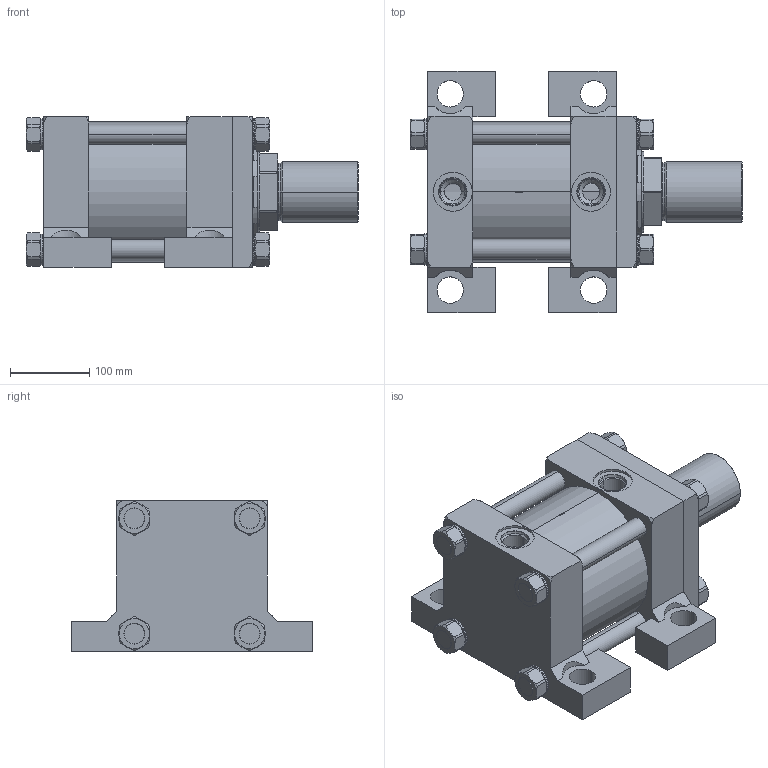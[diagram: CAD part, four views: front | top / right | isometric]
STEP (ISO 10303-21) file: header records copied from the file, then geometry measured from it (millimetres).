
FILE_DESCRIPTION (( 'STEP AP214' ), '1' );
FILE_NAME ('6.00C2HHNAT124A2.000.step', '2026-03-26T21:13:29', ( '' ), ( '' ), 'SwSTEP 2.0', 'SolidWorks 2023', '' );
FILE_SCHEMA (( 'AUTOMOTIVE_DESIGN' ));
Length unit declared in the file: inch
Products named in the file (1): 6.00C2HHNAT124A2.000
Bounding box: 419.1 x 304.8 x 190.5 mm (x, y, z)
Volume: 8965445.6 mm3; surface area: 984969.9 mm2
Topology: 44 solids, 44 shells, 1215 faces, 3133 edges, 2014 vertices
Faces by surface type: plane 789, cylinder 221, cone 163, bspline 34, torus 8
Entity records: 55072 total; most frequent: CARTESIAN_POINT 10977, ORIENTED_EDGE 6266, DIRECTION 5135, EDGE_CURVE 3133, VERTEX_POINT 2014, AXIS2_PLACEMENT_3D 1742, LINE 1651, VECTOR 1651
